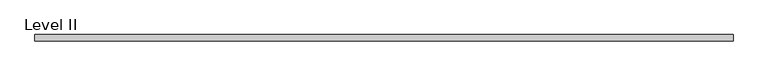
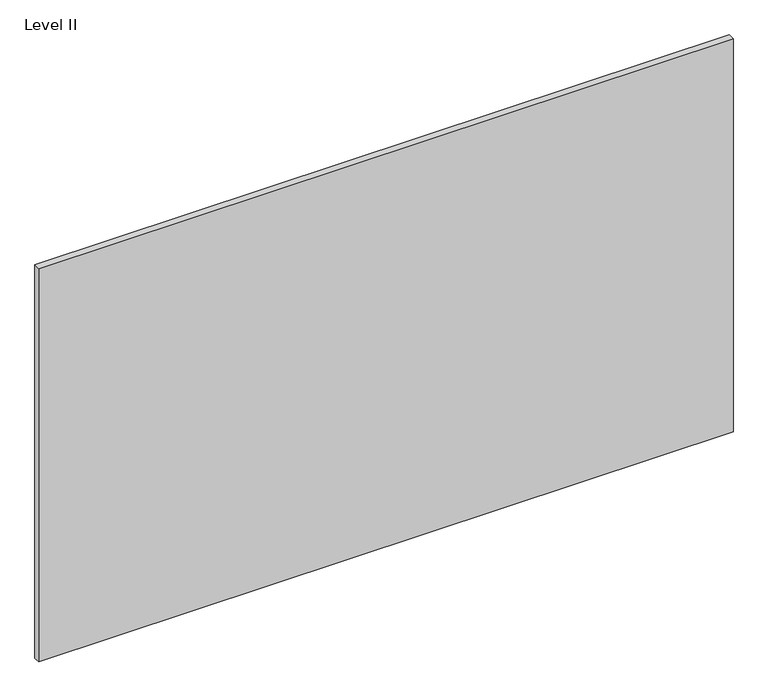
"""IFC4 building model written with IfcOpenShell, lengths in millimetres: proxy geometry, Panel-Fascia-Teknion-Altos-Landscape : Level II."""

from ifc_helpers import new_model, si_unit, frame, origin, place, context, project, spatial, polyline, outline, extrude, source, transform, mapped, element, save


def level_ii_554533ae(model_context):
    return source(origin(), model_context, "Body", "SweptSolid", [
        extrude(outline(polyline([(1012.8305563, -9.525), (-1012.8305562, -9.525), (-1012.8305562, 9.525), (1012.8305563, 9.525), (1012.8305563, -9.525)])), frame((0.0, 0.0, 3.175), z_axis=(0.0, 0.0, 1.0), x_axis=(1.0, 0.0, 0.0)), (0.0, 0.0, 1.0), 1212.85),
    ])


if __name__ == "__main__":
    model = new_model("IFC4")
    model_context = context("Model", 3, world=origin())
    ifc_project = project(units=[si_unit("LENGTHUNIT", "METRE", prefix="MILLI")], contexts=[model_context])
    site = spatial("IfcSite", under=ifc_project)
    building = spatial("IfcBuilding", under=site)
    placement = place(None, origin())
    level_ii_shape = level_ii_554533ae(model_context)
    element("IfcBuildingElementProxy", 1, Name="Panel-Fascia-Teknion-Altos-Landscape : Level II", ObjectType="Panel-Fascia-Teknion-Altos-Landscape : Level II", at=placement, inside=building, context=model_context, shape_type="MappedRepresentation", body=[
        mapped(level_ii_shape, transform((0.0, 0.0, 0.0), x_axis=(1.0, 0.0, 0.0), y_axis=(0.0, 1.0, 0.0), z_axis=(0.0, 0.0, 1.0))),
    ])
    save(model, "model.ifc")
